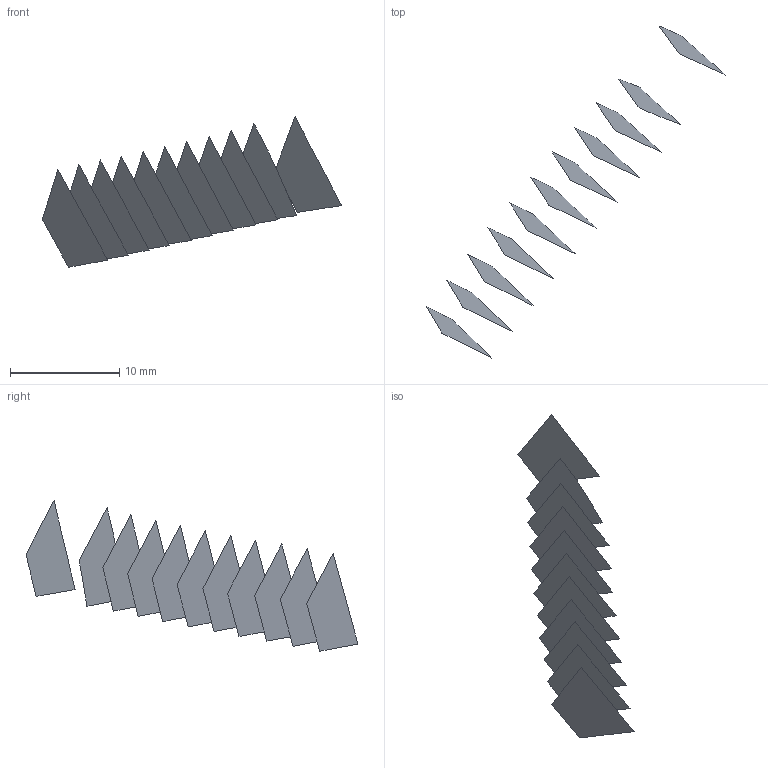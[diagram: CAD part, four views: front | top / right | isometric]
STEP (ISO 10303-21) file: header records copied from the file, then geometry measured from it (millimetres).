
FILE_DESCRIPTION(('FreeCAD Model'),'2;1');
FILE_NAME('Open CASCADE Shape Model','2022-05-22T07:50:32',('FreeCAD'),( 'FreeCAD'),'Open CASCADE STEP processor 7.5','FreeCAD','Unknown');
FILE_SCHEMA(('AUTOMOTIVE_DESIGN { 1 0 10303 214 1 1 1 1 }'));
Length unit declared in the file: millimetre
Products named in the file (12): Open CASCADE STEP translator 7.5 16; Open CASCADE STEP translator 7.5 16.1; Open CASCADE STEP translator 7.5 16.2; Open CASCADE STEP translator 7.5 16.3; Open CASCADE STEP translator 7.5 16.4; Open CASCADE STEP translator 7.5 16.5; Open CASCADE STEP translator 7.5 16.6; Open CASCADE STEP translator 7.5 16.7; Open CASCADE STEP translator 7.5 16.8; Open CASCADE STEP translator 7.5 16.9; Open CASCADE STEP translator 7.5 16.10; Open CASCADE STEP translator 7.5 16.11
Assembly tree (11 placements, depth 2):
  Open CASCADE STEP translator 7.5 16
    Open CASCADE STEP translator 7.5 16.1
    Open CASCADE STEP translator 7.5 16.2
    Open CASCADE STEP translator 7.5 16.3
    Open CASCADE STEP translator 7.5 16.4
    Open CASCADE STEP translator 7.5 16.5
    Open CASCADE STEP translator 7.5 16.6
    Open CASCADE STEP translator 7.5 16.7
    Open CASCADE STEP translator 7.5 16.8
    Open CASCADE STEP translator 7.5 16.9
    Open CASCADE STEP translator 7.5 16.10
    Open CASCADE STEP translator 7.5 16.11
Bounding box: 27.38 x 30.36 x 13.79 mm (x, y, z)
Surface area: 383.2 mm2 (no closed solid volume)
Topology: 0 solids, 11 shells, 11 faces, 120 edges, 120 vertices
Faces by surface type: bspline 11
Entity records: 1884 total; most frequent: CARTESIAN_POINT 656, B_SPLINE_CURVE_WITH_KNOTS 240, ORIENTED_EDGE 120, EDGE_CURVE 120, VERTEX_POINT 120, SURFACE_CURVE 120, PCURVE 120, DEFINITIONAL_REPRESENTATION 120
